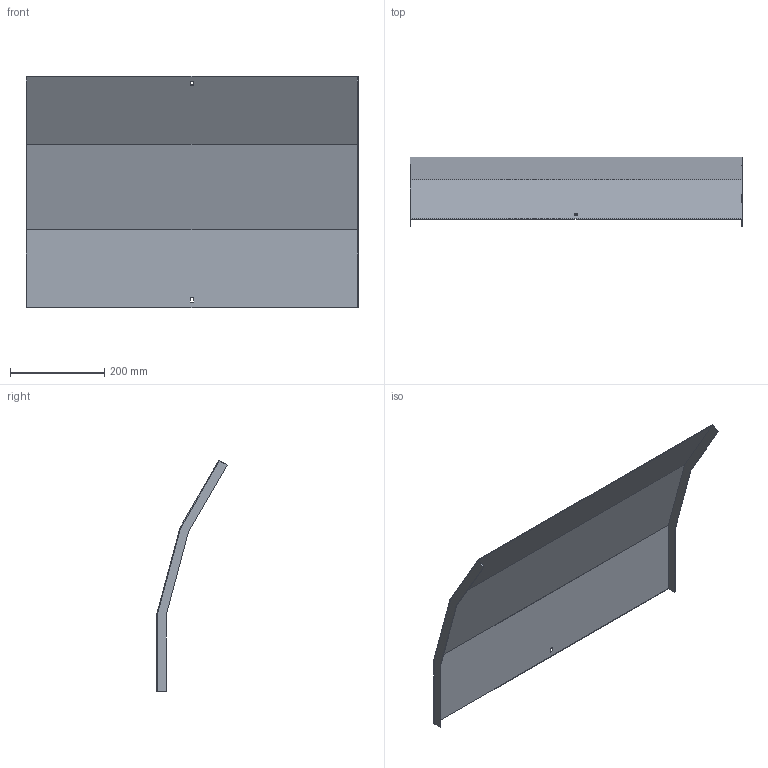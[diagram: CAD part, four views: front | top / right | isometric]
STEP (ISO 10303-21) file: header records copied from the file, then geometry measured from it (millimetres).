
FILE_DESCRIPTION (( 'STEP AP214' ), '1' );
FILE_NAME ('A2_35N3D700.step', '2025-02-21T10:30:58', ( '' ), ( '' ), 'SwSTEP 2.0', 'SolidWorks 2023', '' );
FILE_SCHEMA (( 'AUTOMOTIVE_DESIGN' ));
Length unit declared in the file: millimetre
Products named in the file (1): A2_35N3D700
Bounding box: 703 x 148.61 x 489.96 mm (x, y, z)
Volume: 574664.6 mm3; surface area: 770057.6 mm2
Topology: 1 solids, 1 shells, 26 faces, 72 edges, 48 vertices
Faces by surface type: plane 26
Entity records: 847 total; most frequent: CARTESIAN_POINT 147, ORIENTED_EDGE 144, DIRECTION 126, LINE 72, EDGE_CURVE 72, VECTOR 72, VERTEX_POINT 48, EDGE_LOOP 30
